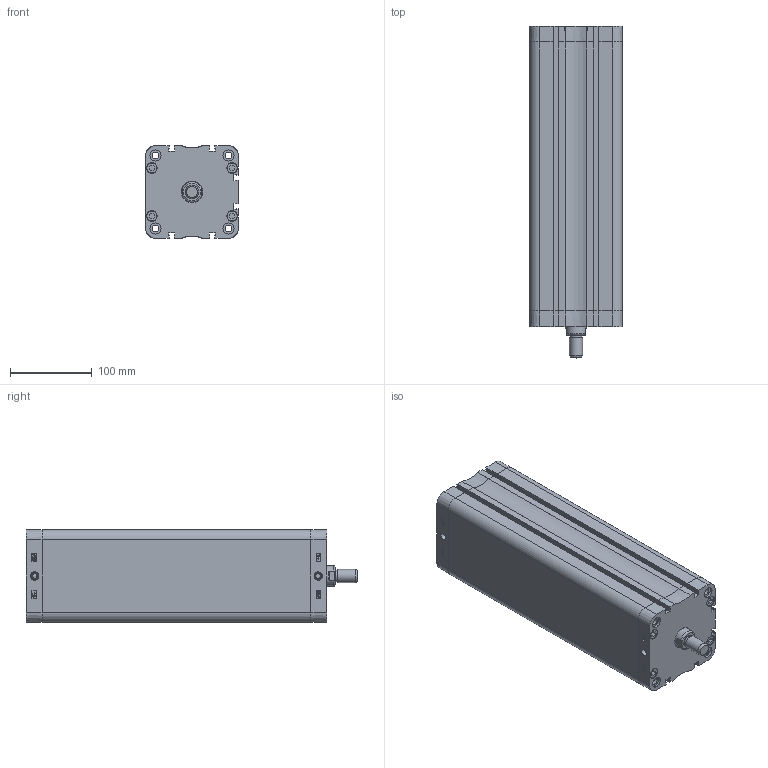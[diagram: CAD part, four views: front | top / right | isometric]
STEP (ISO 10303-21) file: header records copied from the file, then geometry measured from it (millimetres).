
FILE_DESCRIPTION((''),'2;1');
FILE_NAME('T:\Archivio Inventor\- CATALOGHI 2012\SERIE P - NUOVA\PDM\PDM100\PDM100.---.GS.M\PDM100.300.GS.M.stp','2013-02-05T11:45:57',('Administrator'),(''),'Autodesk Inventor 2012','Autodesk Inventor 2012','');
FILE_SCHEMA(('CONFIG_CONTROL_DESIGN'));
Length unit declared in the file: millimetre
Products named in the file (1): PDM100.300.GS.M
Bounding box: 113.3 x 405 x 113.3 mm (x, y, z)
Volume: 1509330.8 mm3; surface area: 458464 mm2
Topology: 1 solids, 5 shells, 908 faces, 2136 edges, 1312 vertices
Faces by surface type: plane 371, bspline 226, cylinder 148, cone 81, torus 58, sphere 24
Full cylindrical faces by diameter (mm): 6 x2, 8.3 x4, 8.376 x8, 8.566 x2, 9.976 x4, 12 x1, 12.7 x8, 13.1 x8, 13.5 x8, 14 x1, 16 x1, 25 x1, 25.5 x1, 100 x1, 103.5 x1, 103.7 x1
Entity records: 29567 total; most frequent: CARTESIAN_POINT 9699, ORIENTED_EDGE 4030, DIRECTION 3400, EDGE_CURVE 2015, VERTEX_POINT 1291, AXIS2_PLACEMENT_3D 1208, EDGE_LOOP 1088, VECTOR 984
